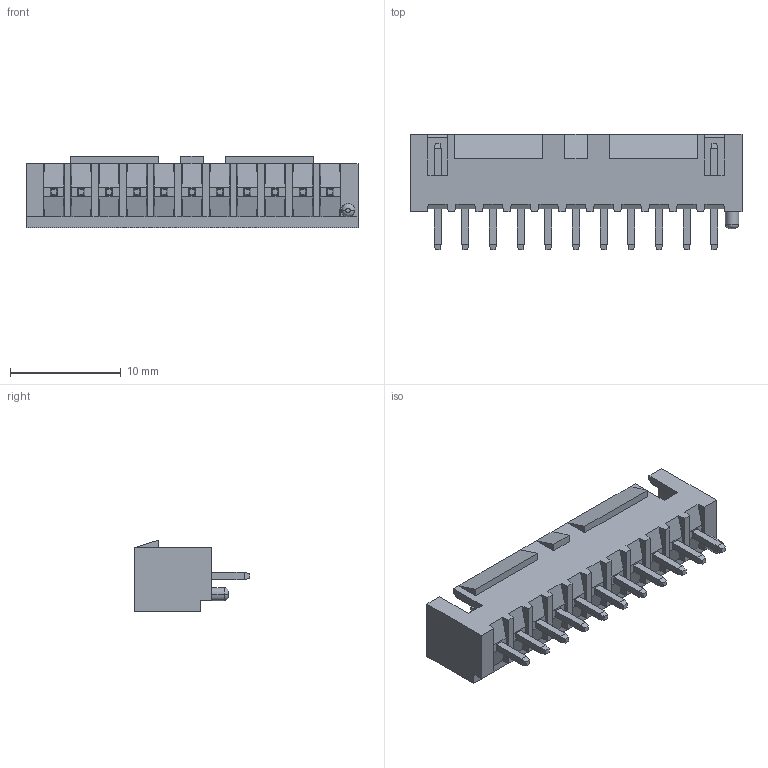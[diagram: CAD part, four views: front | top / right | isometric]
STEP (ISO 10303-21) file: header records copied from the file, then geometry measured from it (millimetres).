
FILE_DESCRIPTION(('CATIA V5 STEP Exchange'),'2;1');
FILE_NAME('F:\黄富鸿\条形连接器\2.50系列\02A--XHB\NAS\HC-XHB-11AS-05（2.50 单排 带扣 直针 带柱-HCTL）.stp','2025-12-01T08:29:53+00:00',('none'),('none'),'CATIA Version 5 Release 20 GA (IN-10)','CATIA V5 STEP AP203','none');
FILE_SCHEMA(('CONFIG_CONTROL_DESIGN'));
Length unit declared in the file: millimetre
Products named in the file (1): Part4
Bounding box: 30 x 10.4 x 6.5 mm (x, y, z)
Volume: 585.9 mm3; surface area: 1493.4 mm2
Topology: 12 solids, 12 shells, 307 faces, 748 edges, 465 vertices
Faces by surface type: plane 303, cylinder 2, revolution 2
Entity records: 7918 total; most frequent: ORIENTED_EDGE 1496, CARTESIAN_POINT 1475, DIRECTION 972, EDGE_CURVE 748, VECTOR 647, LINE 647, VERTEX_POINT 465, EDGE_LOOP 330
